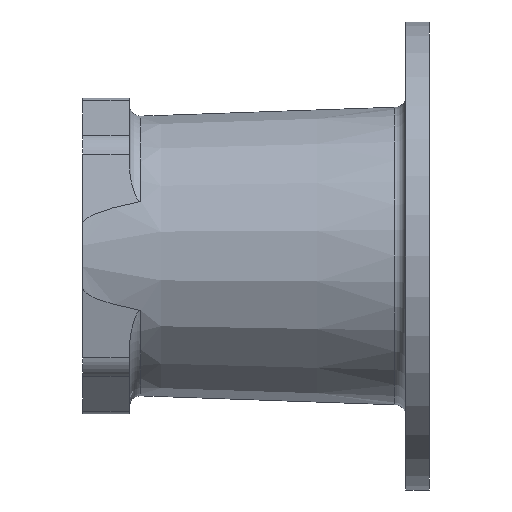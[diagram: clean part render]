
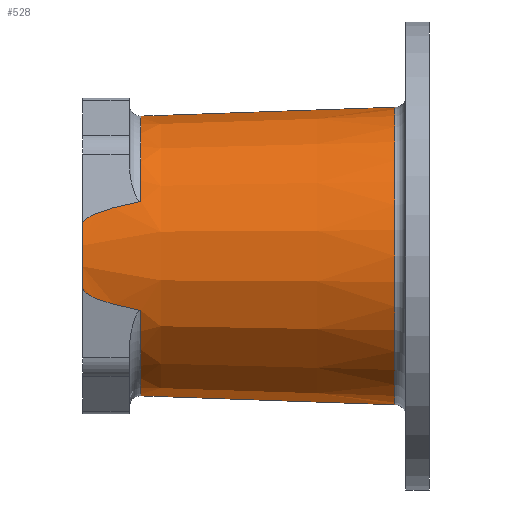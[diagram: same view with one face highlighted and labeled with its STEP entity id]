
A CAD part, left-side view. The second image highlights one B-rep face of the part: STEP entity #528.
In plain terms, the highlighted conical face has half-angle 2 degrees and reference radius 56.111 mm.
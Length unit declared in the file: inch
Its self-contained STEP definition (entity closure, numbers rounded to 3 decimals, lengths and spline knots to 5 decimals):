
#22 = CARTESIAN_POINT ( 'NONE',  ( -2.12059, 5.44269, -0.63357 ) ) ;
#54 = VERTEX_POINT ( 'NONE', #6243 ) ;
#85 = DIRECTION ( 'NONE',  ( 0., 0., -1. ) ) ;
#136 = CARTESIAN_POINT ( 'NONE',  ( -2.06844, 4.70896, 0.85685 ) ) ;
#142 = ORIENTED_EDGE ( 'NONE', *, *, #4275, .F. ) ;
#161 = CARTESIAN_POINT ( 'NONE',  ( -2.12452, 5.47179, 0.61673 ) ) ;
#164 = VERTEX_POINT ( 'NONE', #1666 ) ;
#359 = VERTEX_POINT ( 'NONE', #6810 ) ;
#528 = ADVANCED_FACE ( 'NONE', ( #5163 ), #1956, .T. ) ;
#533 = VERTEX_POINT ( 'NONE', #1940 ) ;
#607 = CARTESIAN_POINT ( 'NONE',  ( -2.11483, 5.39474, -0.65825 ) ) ;
#657 = CARTESIAN_POINT ( 'NONE',  ( 0., 4.62372, 0. ) ) ;
#667 = DIRECTION ( 'NONE',  ( 0., -1., 0. ) ) ;
#721 = DIRECTION ( 'NONE',  ( 0., -0.999, -0.035 ) ) ;
#746 = CARTESIAN_POINT ( 'NONE',  ( -2.13046, 5.50634, 0.59132 ) ) ;
#842 = CARTESIAN_POINT ( 'NONE',  ( 0., 5.56, 0. ) ) ;
#906 = ORIENTED_EDGE ( 'NONE', *, *, #6796, .T. ) ;
#930 = B_SPLINE_CURVE_WITH_KNOTS ( 'NONE', 3,
 ( #6922, #136, #4651, #1274, #5232, #1811, #5806, #2366, #6394, #2925, #6944, #3509, #161, #4095, #746, #4681, #1288, #5251, #1844, #5833, #2384, #6419 ),
 .UNSPECIFIED., .F., .F.,
 ( 4, 2, 2, 2, 2, 2, 2, 2, 2, 2, 4 ),
 ( -0.00484, 0.00179, 0.00842, 0.01173, 0.01505, 0.01671, 0.01836, 0.01919, 0.02002, 0.02085, 0.02168 ),
 .UNSPECIFIED. ) ;
#1084 = B_SPLINE_CURVE_WITH_KNOTS ( 'NONE', 3,
 ( #2777, #3347, #4518, #1154, #5095, #1685, #5668, #2231, #6262, #2801, #6820, #3368, #22, #3951, #607, #4537, #1175, #5131, #1706, #5696, #2261, #6290, #2821, #6843 ),
 .UNSPECIFIED., .F., .F.,
 ( 4, 2, 2, 2, 2, 2, 2, 2, 2, 2, 2, 4 ),
 ( 0., 0.00083, 0.00167, 0.0025, 0.00333, 0.00417, 0.005, 0.00667, 0.01, 0.01333, 0.02, 0.02667 ),
 .UNSPECIFIED. ) ;
#1154 = CARTESIAN_POINT ( 'NONE',  ( -2.14159, 5.54906, -0.54363 ) ) ;
#1162 = AXIS2_PLACEMENT_3D ( 'NONE', #657, #4589, #1208 ) ;
#1175 = CARTESIAN_POINT ( 'NONE',  ( -2.10509, 5.29523, -0.69994 ) ) ;
#1185 = EDGE_CURVE ( 'NONE', #1700, #4753, #3872, .T. ) ;
#1208 = DIRECTION ( 'NONE',  ( 0., 0., 1. ) ) ;
#1236 = AXIS2_PLACEMENT_3D ( 'NONE', #5659, #2218, #6254 ) ;
#1274 = CARTESIAN_POINT ( 'NONE',  ( -2.0819, 4.9632, 0.79924 ) ) ;
#1288 = CARTESIAN_POINT ( 'NONE',  ( -2.13562, 5.52997, 0.56923 ) ) ;
#1301 = ORIENTED_EDGE ( 'NONE', *, *, #2694, .T. ) ;
#1372 = DIRECTION ( 'NONE',  ( 0., -1., 0. ) ) ;
#1502 = VECTOR ( 'NONE', #3457, 39.37008 ) ;
#1666 = CARTESIAN_POINT ( 'NONE',  ( -2.15122, 5.56, 0.50241 ) ) ;
#1685 = CARTESIAN_POINT ( 'NONE',  ( -2.13554, 5.52966, -0.56957 ) ) ;
#1700 = VERTEX_POINT ( 'NONE', #2554 ) ;
#1706 = CARTESIAN_POINT ( 'NONE',  ( -2.09541, 5.17186, -0.74138 ) ) ;
#1800 = VERTEX_POINT ( 'NONE', #7131 ) ;
#1811 = CARTESIAN_POINT ( 'NONE',  ( -2.09545, 5.1724, 0.74121 ) ) ;
#1844 = CARTESIAN_POINT ( 'NONE',  ( -2.14167, 5.54922, 0.5433 ) ) ;
#1940 = CARTESIAN_POINT ( 'NONE',  ( -2.15122, 5.56, -0.50241 ) ) ;
#1956 = CONICAL_SURFACE ( 'NONE', #2380, 2.20911, 0.035 ) ;
#2128 = AXIS2_PLACEMENT_3D ( 'NONE', #6863, #3434, #85 ) ;
#2218 = DIRECTION ( 'NONE',  ( 0., -1., 0. ) ) ;
#2231 = CARTESIAN_POINT ( 'NONE',  ( -2.13038, 5.50592, -0.59167 ) ) ;
#2261 = CARTESIAN_POINT ( 'NONE',  ( -2.08188, 4.96295, -0.7993 ) ) ;
#2366 = CARTESIAN_POINT ( 'NONE',  ( -2.10514, 5.29579, 0.69973 ) ) ;
#2380 = AXIS2_PLACEMENT_3D ( 'NONE', #842, #1372, #4202 ) ;
#2384 = CARTESIAN_POINT ( 'NONE',  ( -2.14871, 5.56, 0.51315 ) ) ;
#2408 = ORIENTED_EDGE ( 'NONE', *, *, #6842, .T. ) ;
#2554 = CARTESIAN_POINT ( 'NONE',  ( 0., 0.55372, -2.38393 ) ) ;
#2694 = EDGE_CURVE ( 'NONE', #359, #1800, #3169, .T. ) ;
#2731 = EDGE_CURVE ( 'NONE', #54, #7064, #5055, .T. ) ;
#2777 = CARTESIAN_POINT ( 'NONE',  ( -2.15122, 5.56, -0.50241 ) ) ;
#2784 = VECTOR ( 'NONE', #721, 39.37008 ) ;
#2801 = CARTESIAN_POINT ( 'NONE',  ( -2.12587, 5.47975, -0.61098 ) ) ;
#2821 = CARTESIAN_POINT ( 'NONE',  ( -2.06844, 4.70891, -0.85686 ) ) ;
#2925 = CARTESIAN_POINT ( 'NONE',  ( -2.11493, 5.39568, 0.65781 ) ) ;
#3169 = CIRCLE ( 'NONE', #1236, 2.24181 ) ;
#3347 = CARTESIAN_POINT ( 'NONE',  ( -2.14869, 5.56, -0.51325 ) ) ;
#3368 = CARTESIAN_POINT ( 'NONE',  ( -2.12184, 5.45209, -0.62824 ) ) ;
#3434 = DIRECTION ( 'NONE',  ( 0., 1., 0. ) ) ;
#3457 = DIRECTION ( 'NONE',  ( 0., -0.999, 0.035 ) ) ;
#3509 = CARTESIAN_POINT ( 'NONE',  ( -2.12192, 5.45322, 0.62787 ) ) ;
#3872 = CIRCLE ( 'NONE', #2128, 2.38393 ) ;
#3915 = CIRCLE ( 'NONE', #6095, 2.20911 ) ;
#3951 = CARTESIAN_POINT ( 'NONE',  ( -2.11701, 5.41417, -0.64891 ) ) ;
#4001 = CARTESIAN_POINT ( 'NONE',  ( 0., 5.56, 0. ) ) ;
#4060 = ORIENTED_EDGE ( 'NONE', *, *, #1185, .T. ) ;
#4076 = CARTESIAN_POINT ( 'NONE',  ( 0., 5.56, -2.20911 ) ) ;
#4095 = CARTESIAN_POINT ( 'NONE',  ( -2.12891, 5.49791, 0.59794 ) ) ;
#4202 = DIRECTION ( 'NONE',  ( 0., 0., -1. ) ) ;
#4275 = EDGE_CURVE ( 'NONE', #359, #4753, #4501, .T. ) ;
#4283 = EDGE_CURVE ( 'NONE', #7064, #1700, #5866, .T. ) ;
#4501 = LINE ( 'NONE', #6793, #1502 ) ;
#4518 = CARTESIAN_POINT ( 'NONE',  ( -2.14624, 5.55757, -0.52373 ) ) ;
#4537 = CARTESIAN_POINT ( 'NONE',  ( -2.10868, 5.33565, -0.68458 ) ) ;
#4589 = DIRECTION ( 'NONE',  ( 0., -1., 0. ) ) ;
#4601 = DIRECTION ( 'NONE',  ( 0., 0., -1. ) ) ;
#4651 = CARTESIAN_POINT ( 'NONE',  ( -2.07267, 4.79399, 0.83876 ) ) ;
#4681 = CARTESIAN_POINT ( 'NONE',  ( -2.13381, 5.52235, 0.57698 ) ) ;
#4753 = VERTEX_POINT ( 'NONE', #5760 ) ;
#5055 = CIRCLE ( 'NONE', #1162, 2.24181 ) ;
#5095 = CARTESIAN_POINT ( 'NONE',  ( -2.13949, 5.54323, -0.55265 ) ) ;
#5131 = CARTESIAN_POINT ( 'NONE',  ( -2.09845, 5.2133, -0.72838 ) ) ;
#5163 = FACE_OUTER_BOUND ( 'NONE', #7306, .T. ) ;
#5232 = CARTESIAN_POINT ( 'NONE',  ( -2.08689, 5.04744, 0.77788 ) ) ;
#5251 = CARTESIAN_POINT ( 'NONE',  ( -2.13953, 5.54335, 0.55248 ) ) ;
#5327 = CARTESIAN_POINT ( 'NONE',  ( 0., 4.62372, -2.24181 ) ) ;
#5571 = ORIENTED_EDGE ( 'NONE', *, *, #6896, .T. ) ;
#5659 = CARTESIAN_POINT ( 'NONE',  ( 0., 4.62372, 0. ) ) ;
#5668 = CARTESIAN_POINT ( 'NONE',  ( -2.13373, 5.52202, -0.57731 ) ) ;
#5696 = CARTESIAN_POINT ( 'NONE',  ( -2.08686, 5.04704, -0.77798 ) ) ;
#5760 = CARTESIAN_POINT ( 'NONE',  ( 0., 0.55372, 2.38393 ) ) ;
#5806 = CARTESIAN_POINT ( 'NONE',  ( -2.09849, 5.2138, 0.72822 ) ) ;
#5833 = CARTESIAN_POINT ( 'NONE',  ( -2.14624, 5.55754, 0.52375 ) ) ;
#5866 = LINE ( 'NONE', #4076, #2784 ) ;
#6095 = AXIS2_PLACEMENT_3D ( 'NONE', #4001, #667, #4601 ) ;
#6243 = CARTESIAN_POINT ( 'NONE',  ( -2.06446, 4.62372, -0.87389 ) ) ;
#6254 = DIRECTION ( 'NONE',  ( 0., 0., 1. ) ) ;
#6262 = CARTESIAN_POINT ( 'NONE',  ( -2.12882, 5.4974, -0.59834 ) ) ;
#6270 = ORIENTED_EDGE ( 'NONE', *, *, #2731, .T. ) ;
#6290 = CARTESIAN_POINT ( 'NONE',  ( -2.07266, 4.79389, -0.83878 ) ) ;
#6394 = CARTESIAN_POINT ( 'NONE',  ( -2.10874, 5.33633, 0.68432 ) ) ;
#6419 = CARTESIAN_POINT ( 'NONE',  ( -2.15122, 5.56, 0.50241 ) ) ;
#6793 = CARTESIAN_POINT ( 'NONE',  ( 0., 5.56, 2.20911 ) ) ;
#6796 = EDGE_CURVE ( 'NONE', #533, #54, #1084, .T. ) ;
#6810 = CARTESIAN_POINT ( 'NONE',  ( 0., 4.62372, 2.24181 ) ) ;
#6820 = CARTESIAN_POINT ( 'NONE',  ( -2.12447, 5.4706, -0.61695 ) ) ;
#6842 = EDGE_CURVE ( 'NONE', #164, #533, #3915, .T. ) ;
#6843 = CARTESIAN_POINT ( 'NONE',  ( -2.06446, 4.62372, -0.87389 ) ) ;
#6863 = CARTESIAN_POINT ( 'NONE',  ( 0., 0.55372, 0. ) ) ;
#6896 = EDGE_CURVE ( 'NONE', #1800, #164, #930, .T. ) ;
#6897 = ORIENTED_EDGE ( 'NONE', *, *, #4283, .T. ) ;
#6922 = CARTESIAN_POINT ( 'NONE',  ( -2.06446, 4.62372, 0.87389 ) ) ;
#6944 = CARTESIAN_POINT ( 'NONE',  ( -2.11712, 5.41517, 0.64842 ) ) ;
#7064 = VERTEX_POINT ( 'NONE', #5327 ) ;
#7131 = CARTESIAN_POINT ( 'NONE',  ( -2.06446, 4.62372, 0.87389 ) ) ;
#7306 = EDGE_LOOP ( 'NONE', ( #142, #1301, #5571, #2408, #906, #6270, #6897, #4060 ) ) ;
